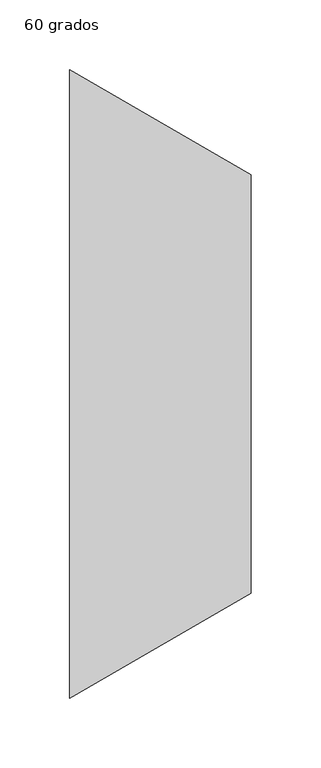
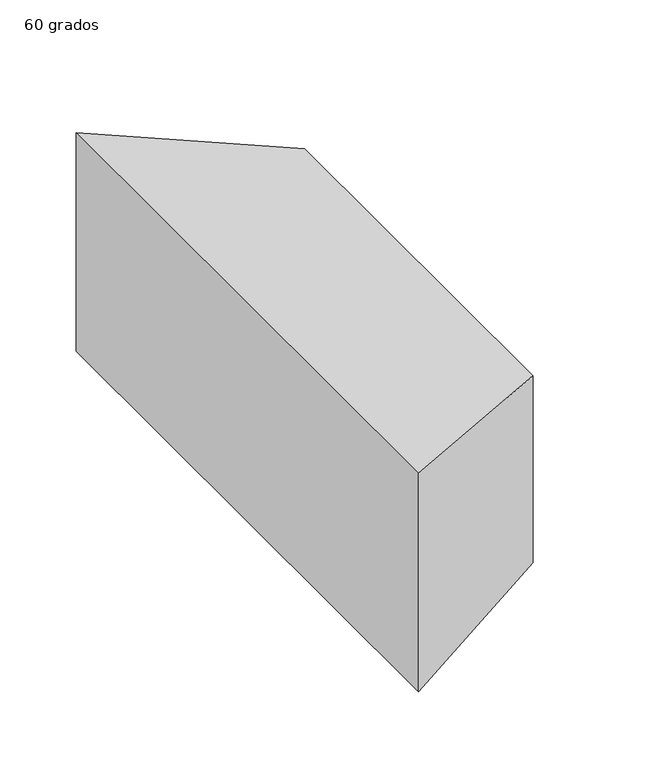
"""IFC4 building model written with IfcOpenShell, lengths in millimetres: duct fitting geometry, M_Transición rectangular - Ángulo : 60 grados."""

from ifc_helpers import new_model, si_unit, origin, place, context, project, spatial, faceted_brep, source, transform, mapped, element, save


def duct_fitting_60_grados_bbf8d75e(model_context):
    return source(origin(), model_context, "Body", "Brep", [
        faceted_brep([(129.9038106, -150.0, 75.0), (129.9038106, -150.0, -75.0), (129.9038106, 150.0, -75.0), (129.9038106, 150.0, 75.0), (0.0, -225.0, 87.5), (0.0, 225.0, 87.5), (0.0, 225.0, -87.5), (0.0, -225.0, -87.5)], [[[0, 1, 2, 3]], [[4, 5, 6, 7]], [[4, 7, 1, 0]], [[7, 6, 2, 1]], [[6, 5, 3, 2]], [[5, 4, 0, 3]]]),
    ])


if __name__ == "__main__":
    model = new_model("IFC4")
    model_context = context("Model", 3, world=origin())
    ifc_project = project(units=[si_unit("LENGTHUNIT", "METRE", prefix="MILLI")], contexts=[model_context])
    site = spatial("IfcSite", under=ifc_project)
    building = spatial("IfcBuilding", under=site)
    placement = place(None, origin())
    duct_fitting_60_grados_shape = duct_fitting_60_grados_bbf8d75e(model_context)
    element("IfcDuctFitting", 1, ObjectType="M_Transición rectangular - Ángulo : 60 grados", at=placement, inside=building, context=model_context, shape_type="MappedRepresentation", body=[
        mapped(duct_fitting_60_grados_shape, transform((0.0, 0.0, 0.0), x_axis=(1.0, 0.0, 0.0), y_axis=(0.0, 1.0, 0.0), z_axis=(0.0, 0.0, 1.0))),
    ])
    save(model, "model.ifc")
